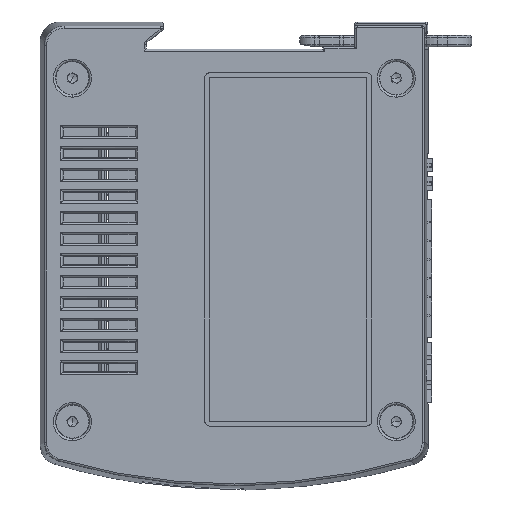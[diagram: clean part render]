
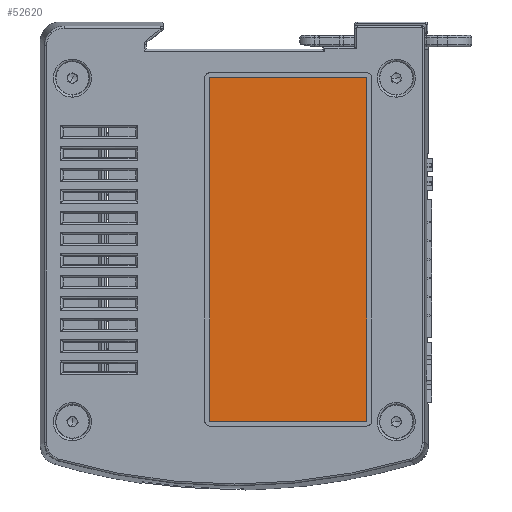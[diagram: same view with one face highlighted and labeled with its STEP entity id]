
A CAD part, left-side view. The second image highlights one B-rep face of the part: STEP entity #52620.
In plain terms, the highlighted planar face has unit normal (-1, 0, 0) as drawn and (0, 1, 0) by its records, which use the part's own axes.
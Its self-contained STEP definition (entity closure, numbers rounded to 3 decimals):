
#1431 = LINE ( 'NONE', #15585, #9116 ) ;
#1460 = CARTESIAN_POINT ( 'NONE',  ( 35., 0.2, -16. ) ) ;
#5013 = VERTEX_POINT ( 'NONE', #46823 ) ;
#6368 = DIRECTION ( 'NONE',  ( -1., 0., 0. ) ) ;
#6395 = DIRECTION ( 'NONE',  ( 0., 0., -1. ) ) ;
#8524 = EDGE_CURVE ( 'NONE', #27831, #5013, #19864, .T. ) ;
#9116 = VECTOR ( 'NONE', #6368, 1000. ) ;
#14704 = CARTESIAN_POINT ( 'NONE',  ( -35., 0.2, -16. ) ) ;
#15585 = CARTESIAN_POINT ( 'NONE',  ( -35., 0.2, -16. ) ) ;
#16213 = CARTESIAN_POINT ( 'NONE',  ( 0., 0.2, 0. ) ) ;
#18024 = VECTOR ( 'NONE', #63938, 1000. ) ;
#18758 = CARTESIAN_POINT ( 'NONE',  ( -35., 0.2, 16. ) ) ;
#19225 = CARTESIAN_POINT ( 'NONE',  ( -35., 0.2, -16. ) ) ;
#19661 = LINE ( 'NONE', #1460, #48209 ) ;
#19864 = LINE ( 'NONE', #19225, #18024 ) ;
#25429 = PLANE ( 'NONE',  #64647 ) ;
#26067 = ORIENTED_EDGE ( 'NONE', *, *, #8524, .T. ) ;
#26414 = DIRECTION ( 'NONE',  ( 0., 0., 1. ) ) ;
#27831 = VERTEX_POINT ( 'NONE', #14704 ) ;
#28149 = EDGE_LOOP ( 'NONE', ( #53037, #47661, #26067, #54657 ) ) ;
#30327 = FACE_OUTER_BOUND ( 'NONE', #28149, .T. ) ;
#33030 = EDGE_CURVE ( 'NONE', #38352, #27831, #1431, .T. ) ;
#34926 = EDGE_CURVE ( 'NONE', #5013, #62813, #43661, .T. ) ;
#35882 = DIRECTION ( 'NONE',  ( 0., 1., 0. ) ) ;
#38352 = VERTEX_POINT ( 'NONE', #46872 ) ;
#38759 = DIRECTION ( 'NONE',  ( 1., 0., 0. ) ) ;
#41672 = CARTESIAN_POINT ( 'NONE',  ( 35., 0.2, 16. ) ) ;
#43661 = LINE ( 'NONE', #18758, #56555 ) ;
#46823 = CARTESIAN_POINT ( 'NONE',  ( -35., 0.2, 16. ) ) ;
#46872 = CARTESIAN_POINT ( 'NONE',  ( 35., 0.2, -16. ) ) ;
#47661 = ORIENTED_EDGE ( 'NONE', *, *, #33030, .T. ) ;
#48209 = VECTOR ( 'NONE', #6395, 1000. ) ;
#52620 = ADVANCED_FACE ( 'NONE', ( #30327 ), #25429, .T. ) ;
#53037 = ORIENTED_EDGE ( 'NONE', *, *, #54674, .T. ) ;
#54657 = ORIENTED_EDGE ( 'NONE', *, *, #34926, .T. ) ;
#54674 = EDGE_CURVE ( 'NONE', #62813, #38352, #19661, .T. ) ;
#56555 = VECTOR ( 'NONE', #38759, 1000. ) ;
#62813 = VERTEX_POINT ( 'NONE', #41672 ) ;
#63938 = DIRECTION ( 'NONE',  ( 0., 0., 1. ) ) ;
#64647 = AXIS2_PLACEMENT_3D ( 'NONE', #16213, #35882, #26414 ) ;
